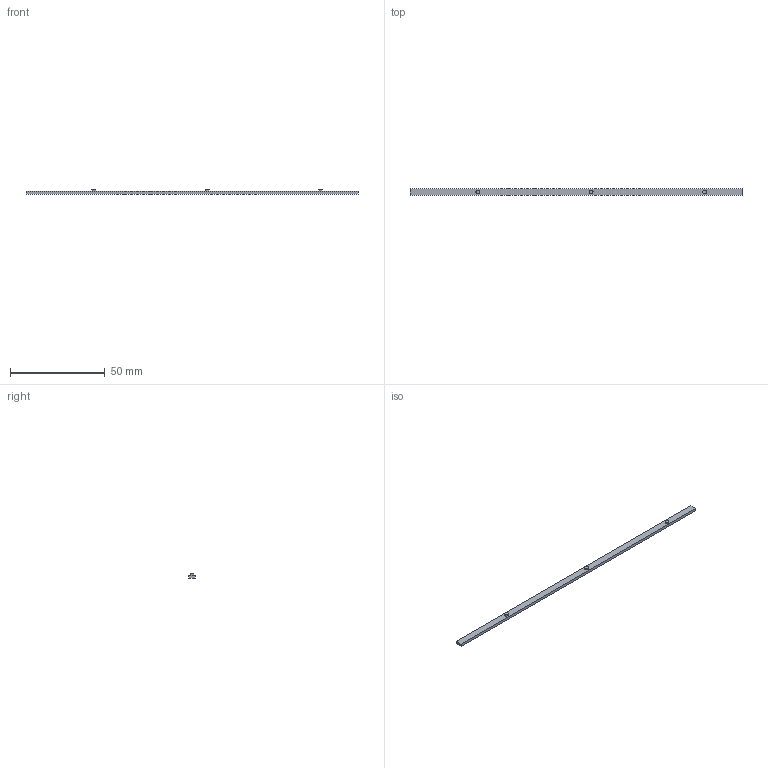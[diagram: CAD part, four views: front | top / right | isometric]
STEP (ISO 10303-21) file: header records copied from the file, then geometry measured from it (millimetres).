
FILE_DESCRIPTION(('Open CASCADE Model'),'2;1');
FILE_NAME('Open CASCADE Shape Model','2026-10-27T10:00:44',('Author'),( 'Open CASCADE'),'Open CASCADE STEP processor 8.0','build123d', 'Unknown');
FILE_SCHEMA(('AUTOMOTIVE_DESIGN { 1 0 10303 214 1 1 1 1 }'));
Length unit declared in the file: millimetre
Products named in the file (2): =>[0:1:1:2]; COMPOUND
Assembly tree (1 placements, depth 2):
  =>[0:1:1:2]
    COMPOUND
Bounding box: 175.6 x 3.6 x 2.3 mm (x, y, z)
Volume: 955.8 mm3; surface area: 1817 mm2
Topology: 1 solids, 1 shells, 12 faces, 21 edges, 14 vertices
Faces by surface type: plane 9, cylinder 3
Full cylindrical faces by diameter (mm): 2 x3
Entity records: 592 total; most frequent: DIRECTION 97, CARTESIAN_POINT 91, LINE 51, VECTOR 51, ORIENTED_EDGE 42, PCURVE 42, DEFINITIONAL_REPRESENTATION 42, EDGE_CURVE 21
